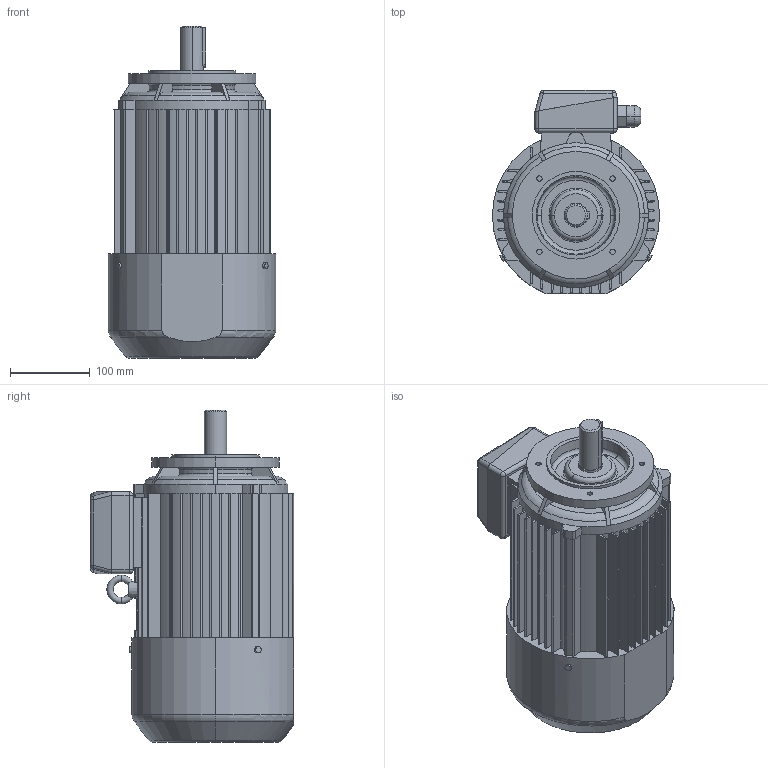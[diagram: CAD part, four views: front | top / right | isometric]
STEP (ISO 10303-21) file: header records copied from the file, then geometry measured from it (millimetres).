
FILE_DESCRIPTION (( 'STEP AP203' ), '1' );
FILE_NAME ('3SIEK100L4A,4B-B14-C2.STEP', '2016-02-08T12:14:44', ( 'Indukta' ), ( 'Celma Indukta S.A.' ), 'SwSTEP 2.0', 'SolidWorks 2003064', '' );
FILE_SCHEMA (( 'CONFIG_CONTROL_DESIGN' ));
Length unit declared in the file: millimetre
Products named in the file (1): 3SIEK100L4A,4B-B14-C2
Bounding box: 210 x 255 x 417 mm (x, y, z)
Volume: 10688129.1 mm3; surface area: 479401.9 mm2
Topology: 1 solids, 1 shells, 625 faces, 1672 edges, 1061 vertices
Faces by surface type: plane 315, cylinder 161, bspline 78, torus 43, cone 20, sphere 8
Entity records: 26310 total; most frequent: CARTESIAN_POINT 11029, ORIENTED_EDGE 3328, DIRECTION 2978, EDGE_CURVE 1664, VERTEX_POINT 1061, AXIS2_PLACEMENT_3D 1036, LINE 906, VECTOR 906
